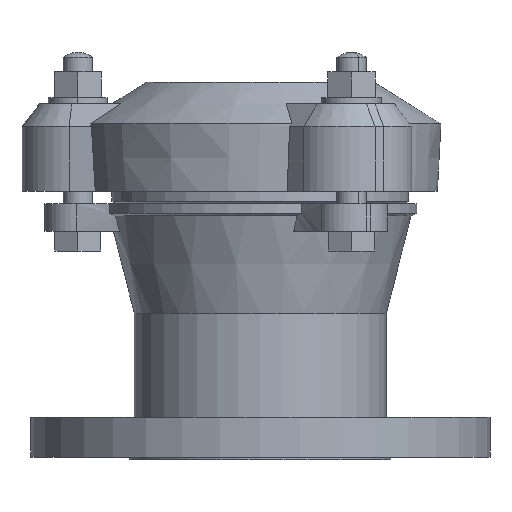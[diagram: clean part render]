
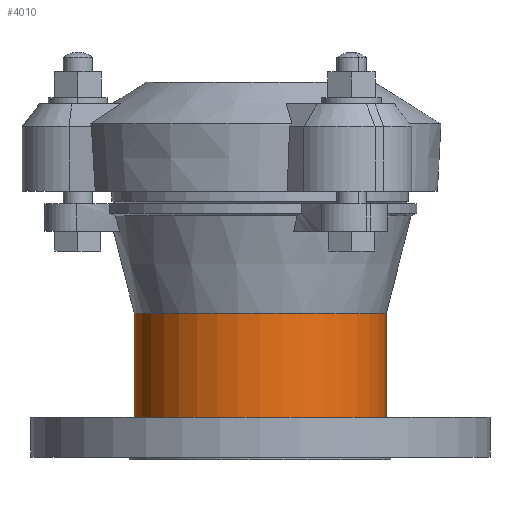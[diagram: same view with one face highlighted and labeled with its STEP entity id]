
A CAD part, left-side view. The second image highlights one B-rep face of the part: STEP entity #4010.
In plain terms, the highlighted cylindrical face has radius 50.75 mm (diameter 101.5 mm), a partial arc.
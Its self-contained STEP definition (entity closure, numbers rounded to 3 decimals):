
#2735=CARTESIAN_POINT('',(0.,0.,45.97));
#2736=DIRECTION('',(0.,0.,1.));
#2737=DIRECTION('',(0.,1.,0.));
#2738=AXIS2_PLACEMENT_3D('',#2735,#2736,#2737);
#2803=CARTESIAN_POINT('',(0.,0.,4.));
#2804=DIRECTION('',(0.,0.,1.));
#2805=DIRECTION('',(0.,1.,0.));
#2806=AXIS2_PLACEMENT_3D('',#2803,#2804,#2805);
#2808=DIRECTION('',(0.,0.,1.));
#2809=VECTOR('',#2808,41.97);
#2810=CARTESIAN_POINT('',(0.,50.75,4.));
#2811=LINE('',#2810,#2809);
#2817=DIRECTION('',(0.,0.,1.));
#2818=VECTOR('',#2817,41.97);
#2819=CARTESIAN_POINT('',(0.,-50.75,4.));
#2820=LINE('',#2819,#2818);
#3401=CARTESIAN_POINT('',(0.,50.75,4.));
#3402=CARTESIAN_POINT('',(0.,50.75,45.97));
#3403=VERTEX_POINT('',#3401);
#3404=VERTEX_POINT('',#3402);
#3409=CARTESIAN_POINT('',(0.,-50.75,4.));
#3410=CARTESIAN_POINT('',(0.,-50.75,45.97));
#3411=VERTEX_POINT('',#3409);
#3412=VERTEX_POINT('',#3410);
#3996=CARTESIAN_POINT('',(0.,0.,-0.3));
#3997=DIRECTION('',(0.,0.,1.));
#3998=DIRECTION('',(0.,1.,0.));
#3999=AXIS2_PLACEMENT_3D('',#3996,#3997,#3998);
#4000=CYLINDRICAL_SURFACE('',#3999,50.75);
#4002=ORIENTED_EDGE('',*,*,#4001,.T.);
#4003=ORIENTED_EDGE('',*,*,#3912,.T.);
#4005=ORIENTED_EDGE('',*,*,#4004,.F.);
#4007=ORIENTED_EDGE('',*,*,#4006,.F.);
#4008=EDGE_LOOP('',(#4002,#4003,#4005,#4007));
#4009=FACE_OUTER_BOUND('',#4008,.F.);
#4010=ADVANCED_FACE('',(#4009),#4000,.T.);
#2739=CIRCLE('',#2738,50.75);
#2807=CIRCLE('',#2806,50.75);
#3912=EDGE_CURVE('',#3404,#3412,#2739,.T.);
#4001=EDGE_CURVE('',#3403,#3404,#2811,.T.);
#4004=EDGE_CURVE('',#3411,#3412,#2820,.T.);
#4006=EDGE_CURVE('',#3403,#3411,#2807,.T.);
